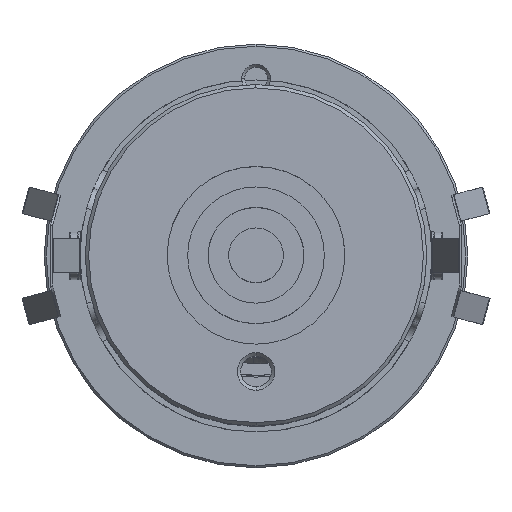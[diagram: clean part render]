
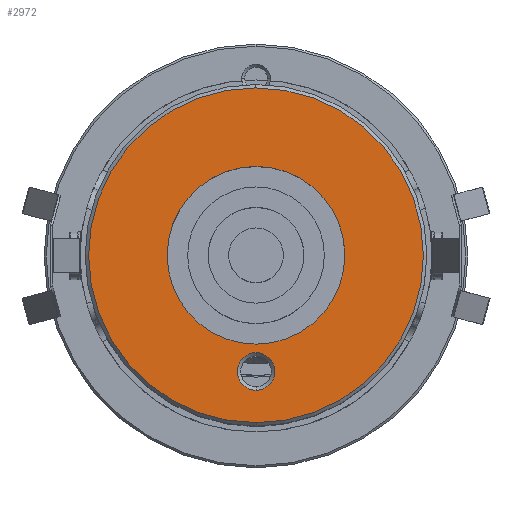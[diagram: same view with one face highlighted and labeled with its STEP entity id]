
A CAD part, top view. The second image highlights one B-rep face of the part: STEP entity #2972.
In plain terms, the highlighted planar face has unit normal (0, 0.002, 1).
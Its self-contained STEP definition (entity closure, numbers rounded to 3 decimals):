
#286=FACE_BOUND('',#5864,.T.);
#287=FACE_BOUND('',#5865,.T.);
#446=TRIMMED_CURVE($,#1087,(#29647),(#29648),.T.,.CARTESIAN.);
#451=TRIMMED_CURVE($,#1092,(#29670),(#29671),.T.,.CARTESIAN.);
#458=TRIMMED_CURVE($,#1099,(#29699),(#29700),.T.,.CARTESIAN.);
#477=TRIMMED_CURVE($,#1118,(#29806),(#29807),.T.,.CARTESIAN.);
#484=TRIMMED_CURVE($,#1125,(#29831),(#29832),.T.,.CARTESIAN.);
#487=TRIMMED_CURVE($,#1128,(#29844),(#29845),.T.,.CARTESIAN.);
#1087=CIRCLE('',#24580,2.75);
#1092=CIRCLE('',#24585,24.5);
#1099=CIRCLE('',#24592,13.);
#1118=CIRCLE('',#24611,13.);
#1125=CIRCLE('',#24618,24.5);
#1128=CIRCLE('',#24621,2.75);
#1741=PLANE('',#24567);
#2972=ADVANCED_FACE('',(#4415,#286,#287),#1741,.T.);
#4415=FACE_OUTER_BOUND('',#5863,.T.);
#5863=EDGE_LOOP('',(#7520,#7521));
#5864=EDGE_LOOP('',(#7522,#7523));
#5865=EDGE_LOOP('',(#7524,#7525));
#7520=ORIENTED_EDGE('',*,*,#14671,.F.);
#7521=ORIENTED_EDGE('',*,*,#14726,.F.);
#7522=ORIENTED_EDGE('',*,*,#14682,.T.);
#7523=ORIENTED_EDGE('',*,*,#14717,.T.);
#7524=ORIENTED_EDGE('',*,*,#14731,.T.);
#7525=ORIENTED_EDGE('',*,*,#14662,.T.);
#14662=EDGE_CURVE('',#21587,#21590,#446,.T.);
#14671=EDGE_CURVE('',#21598,#21597,#451,.T.);
#14682=EDGE_CURVE('',#21612,#21614,#458,.T.);
#14717=EDGE_CURVE('',#21614,#21612,#477,.T.);
#14726=EDGE_CURVE('',#21597,#21598,#484,.T.);
#14731=EDGE_CURVE('',#21590,#21587,#487,.T.);
#21587=VERTEX_POINT('',#29600);
#21590=VERTEX_POINT('',#29603);
#21597=VERTEX_POINT('',#29610);
#21598=VERTEX_POINT('',#29611);
#21612=VERTEX_POINT('',#29625);
#21614=VERTEX_POINT('',#29627);
#24567=AXIS2_PLACEMENT_3D('',#29533,#26433,$);
#24580=AXIS2_PLACEMENT_3D($,#29646,#26446,#26447);
#24585=AXIS2_PLACEMENT_3D($,#29669,#26456,#26457);
#24592=AXIS2_PLACEMENT_3D($,#29698,#26470,#26471);
#24611=AXIS2_PLACEMENT_3D($,#29805,#26508,#26509);
#24618=AXIS2_PLACEMENT_3D($,#29830,#26522,#26523);
#24621=AXIS2_PLACEMENT_3D($,#29843,#26528,#26529);
#26433=DIRECTION('',(0.,0.002,1.));
#26446=DIRECTION('',(0.,-0.002,-1.));
#26447=DIRECTION('',(-0.001,1.,-0.002));
#26456=DIRECTION('',(0.,-0.002,-1.));
#26457=DIRECTION('',(0.001,-1.,0.002));
#26470=DIRECTION('',(0.,-0.002,-1.));
#26471=DIRECTION('',(-0.001,1.,-0.002));
#26508=DIRECTION('',(0.,-0.002,-1.));
#26509=DIRECTION('',(0.001,-1.,0.002));
#26522=DIRECTION('',(0.,-0.002,-1.));
#26523=DIRECTION('',(-0.001,1.,-0.002));
#26528=DIRECTION('',(0.,-0.002,-1.));
#26529=DIRECTION('',(0.001,-1.,0.002));
#29533=CARTESIAN_POINT('',(-24.779,-24.754,28.356));
#29600=CARTESIAN_POINT('',(0.008,-14.195,28.332));
#29603=CARTESIAN_POINT('',(0.012,-19.695,28.345));
#29610=CARTESIAN_POINT('',(-0.015,24.555,28.244));
#29611=CARTESIAN_POINT('',(0.015,-24.445,28.356));
#29625=CARTESIAN_POINT('',(-0.008,13.055,28.27));
#29627=CARTESIAN_POINT('',(0.008,-12.945,28.33));
#29646=CARTESIAN_POINT('',(0.01,-16.945,28.339));
#29647=CARTESIAN_POINT('',(0.008,-14.195,28.332));
#29648=CARTESIAN_POINT('',(0.012,-19.695,28.345));
#29669=CARTESIAN_POINT('',(0.,0.055,28.3));
#29670=CARTESIAN_POINT('',(0.015,-24.445,28.356));
#29671=CARTESIAN_POINT('',(-0.015,24.555,28.244));
#29698=CARTESIAN_POINT('',(0.,0.055,28.3));
#29699=CARTESIAN_POINT('',(-0.008,13.055,28.27));
#29700=CARTESIAN_POINT('',(0.008,-12.945,28.33));
#29805=CARTESIAN_POINT('',(0.,0.055,28.3));
#29806=CARTESIAN_POINT('',(0.008,-12.945,28.33));
#29807=CARTESIAN_POINT('',(-0.008,13.055,28.27));
#29830=CARTESIAN_POINT('',(0.,0.055,28.3));
#29831=CARTESIAN_POINT('',(-0.015,24.555,28.244));
#29832=CARTESIAN_POINT('',(0.015,-24.445,28.356));
#29843=CARTESIAN_POINT('',(0.01,-16.945,28.339));
#29844=CARTESIAN_POINT('',(0.012,-19.695,28.345));
#29845=CARTESIAN_POINT('',(0.008,-14.195,28.332));
